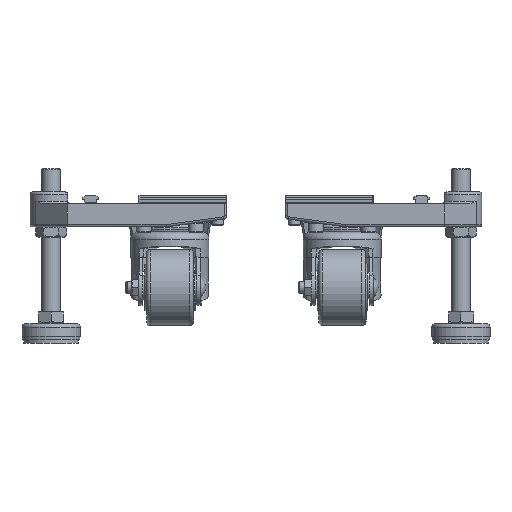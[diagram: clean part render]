
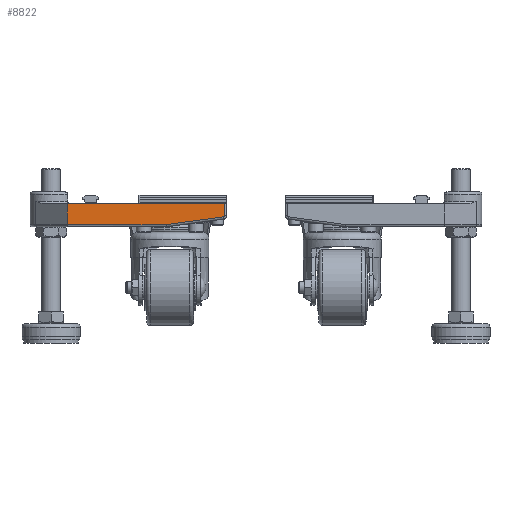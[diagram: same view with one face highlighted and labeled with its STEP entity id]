
A CAD part, front view. The second image highlights one B-rep face of the part: STEP entity #8822.
In plain terms, the highlighted planar face has unit normal (0, -1, 0).
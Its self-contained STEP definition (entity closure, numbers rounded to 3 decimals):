
#8822=ADVANCED_FACE('',(#16450),#16451,.F.);
#16450=FACE_OUTER_BOUND('',#26688,.T.);
#16451=PLANE('',#26689);
#26688=EDGE_LOOP('',(#42876,#42877,#42878,#42879,#42880,#42881));
#26689=AXIS2_PLACEMENT_3D('',#42882,#42883,#42884);
#42876=ORIENTED_EDGE('',*,*,#53492,.T.);
#42877=ORIENTED_EDGE('',*,*,#53302,.T.);
#42878=ORIENTED_EDGE('',*,*,#53493,.T.);
#42879=ORIENTED_EDGE('',*,*,#53457,.T.);
#42880=ORIENTED_EDGE('',*,*,#53162,.F.);
#42881=ORIENTED_EDGE('',*,*,#53494,.F.);
#42882=CARTESIAN_POINT('',(2444.12,-2554.349,-385.914));
#42883=DIRECTION('',(0.,1.0,0.));
#42884=DIRECTION('',(0.,0.,1.0));
#53162=EDGE_CURVE('',#62050,#62052,#62053,.T.);
#53302=EDGE_CURVE('',#62318,#62315,#62319,.T.);
#53457=EDGE_CURVE('',#62545,#62052,#62546,.T.);
#53492=EDGE_CURVE('',#62376,#62318,#62589,.T.);
#53493=EDGE_CURVE('',#62315,#62545,#62590,.T.);
#53494=EDGE_CURVE('',#62376,#62050,#62591,.T.);
#62050=VERTEX_POINT('',#76436);
#62052=VERTEX_POINT('',#76439);
#62053=LINE('',#76440,#76441);
#62315=VERTEX_POINT('',#76810);
#62318=VERTEX_POINT('',#76813);
#62319=LINE('',#76814,#76815);
#62376=VERTEX_POINT('',#76886);
#62545=VERTEX_POINT('',#77171);
#62546=LINE('',#77172,#77173);
#62589=LINE('',#77235,#77236);
#62590=CIRCLE('',#77237,1.0);
#62591=LINE('',#77238,#77239);
#76436=CARTESIAN_POINT('',(2444.12,-2554.349,-365.914));
#76439=CARTESIAN_POINT('',(2579.12,-2554.349,-365.914));
#76440=CARTESIAN_POINT('',(2444.12,-2554.349,-365.914));
#76441=VECTOR('',#86837,1.0);
#76810=CARTESIAN_POINT('',(2578.254,-2554.349,-377.282));
#76813=CARTESIAN_POINT('',(2528.986,-2554.349,-383.914));
#76814=CARTESIAN_POINT('',(2487.11,-2554.349,-389.551));
#76815=VECTOR('',#87011,1.0);
#76886=CARTESIAN_POINT('',(2444.12,-2554.349,-383.914));
#77171=CARTESIAN_POINT('',(2579.12,-2554.349,-376.291));
#77172=CARTESIAN_POINT('',(2579.12,-2554.349,-385.914));
#77173=VECTOR('',#87189,1.0);
#77235=CARTESIAN_POINT('',(2437.12,-2554.349,-383.914));
#77236=VECTOR('',#87218,1.0);
#77237=AXIS2_PLACEMENT_3D('',#87219,#87220,#87221);
#77238=CARTESIAN_POINT('',(2444.12,-2554.349,-385.914));
#77239=VECTOR('',#87222,1.0);
#86837=DIRECTION('',(1.0,0.,0.));
#87011=DIRECTION('',(0.991,0.,0.133));
#87189=DIRECTION('',(0.,0.,1.0));
#87218=DIRECTION('',(1.0,0.,0.));
#87219=CARTESIAN_POINT('',(2578.12,-2554.349,-376.291));
#87220=DIRECTION('',(0.,-1.0,0.));
#87221=DIRECTION('',(0.753,0.,-0.658));
#87222=DIRECTION('',(0.,0.,1.0));
